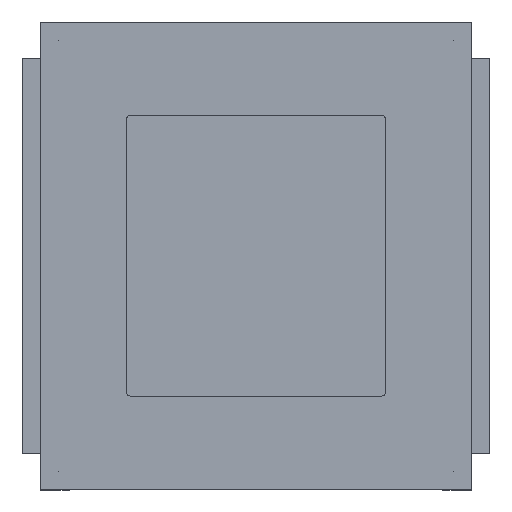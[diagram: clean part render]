
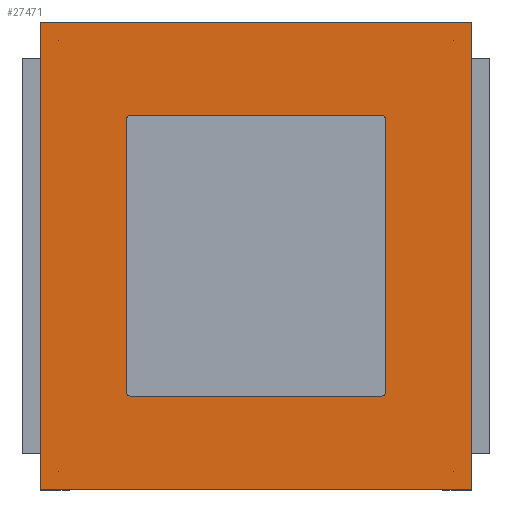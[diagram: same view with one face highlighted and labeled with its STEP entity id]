
A CAD part, top view. The second image highlights one B-rep face of the part: STEP entity #27471.
In plain terms, the highlighted planar face has unit normal (0, 0, 1).
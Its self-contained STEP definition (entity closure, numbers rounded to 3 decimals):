
#27157 = VERTEX_POINT('',#27158);
#27158 = CARTESIAN_POINT('',(-298.,-323.,402.));
#27165 = PLANE('',#27166);
#27166 = AXIS2_PLACEMENT_3D('',#27167,#27168,#27169);
#27167 = CARTESIAN_POINT('',(-298.,-323.,392.));
#27168 = DIRECTION('',(1.,0.,0.));
#27169 = DIRECTION('',(0.,0.,1.));
#27177 = PLANE('',#27178);
#27178 = AXIS2_PLACEMENT_3D('',#27179,#27180,#27181);
#27179 = CARTESIAN_POINT('',(-298.,-323.,392.));
#27180 = DIRECTION('',(0.,1.,0.));
#27181 = DIRECTION('',(0.,0.,1.));
#27218 = VERTEX_POINT('',#27219);
#27219 = CARTESIAN_POINT('',(-298.,323.,402.));
#27233 = PLANE('',#27234);
#27234 = AXIS2_PLACEMENT_3D('',#27235,#27236,#27237);
#27235 = CARTESIAN_POINT('',(-298.,323.,392.));
#27236 = DIRECTION('',(0.,1.,0.));
#27237 = DIRECTION('',(0.,0.,1.));
#27245 = EDGE_CURVE('',#27157,#27218,#27246,.T.);
#27246 = SURFACE_CURVE('',#27247,(#27251,#27258),.PCURVE_S1.);
#27247 = LINE('',#27248,#27249);
#27248 = CARTESIAN_POINT('',(-298.,-323.,402.));
#27249 = VECTOR('',#27250,1.);
#27250 = DIRECTION('',(0.,1.,0.));
#27251 = PCURVE('',#27165,#27252);
#27252 = DEFINITIONAL_REPRESENTATION('',(#27253),#27257);
#27253 = LINE('',#27254,#27255);
#27254 = CARTESIAN_POINT('',(10.,0.));
#27255 = VECTOR('',#27256,1.);
#27256 = DIRECTION('',(0.,-1.));
#27257 = ( GEOMETRIC_REPRESENTATION_CONTEXT(2) 
PARAMETRIC_REPRESENTATION_CONTEXT() REPRESENTATION_CONTEXT('2D SPACE',''
  ) );
#27258 = PCURVE('',#27259,#27264);
#27259 = PLANE('',#27260);
#27260 = AXIS2_PLACEMENT_3D('',#27261,#27262,#27263);
#27261 = CARTESIAN_POINT('',(-298.,-323.,402.));
#27262 = DIRECTION('',(0.,0.,1.));
#27263 = DIRECTION('',(1.,0.,0.));
#27264 = DEFINITIONAL_REPRESENTATION('',(#27265),#27269);
#27265 = LINE('',#27266,#27267);
#27266 = CARTESIAN_POINT('',(0.,0.));
#27267 = VECTOR('',#27268,1.);
#27268 = DIRECTION('',(0.,1.));
#27269 = ( GEOMETRIC_REPRESENTATION_CONTEXT(2) 
PARAMETRIC_REPRESENTATION_CONTEXT() REPRESENTATION_CONTEXT('2D SPACE',''
  ) );
#27277 = VERTEX_POINT('',#27278);
#27278 = CARTESIAN_POINT('',(298.,-323.,402.));
#27285 = PLANE('',#27286);
#27286 = AXIS2_PLACEMENT_3D('',#27287,#27288,#27289);
#27287 = CARTESIAN_POINT('',(298.,-323.,392.));
#27288 = DIRECTION('',(1.,0.,0.));
#27289 = DIRECTION('',(0.,0.,1.));
#27328 = VERTEX_POINT('',#27329);
#27329 = CARTESIAN_POINT('',(298.,323.,402.));
#27350 = EDGE_CURVE('',#27277,#27328,#27351,.T.);
#27351 = SURFACE_CURVE('',#27352,(#27356,#27363),.PCURVE_S1.);
#27352 = LINE('',#27353,#27354);
#27353 = CARTESIAN_POINT('',(298.,-323.,402.));
#27354 = VECTOR('',#27355,1.);
#27355 = DIRECTION('',(0.,1.,0.));
#27356 = PCURVE('',#27285,#27357);
#27357 = DEFINITIONAL_REPRESENTATION('',(#27358),#27362);
#27358 = LINE('',#27359,#27360);
#27359 = CARTESIAN_POINT('',(10.,0.));
#27360 = VECTOR('',#27361,1.);
#27361 = DIRECTION('',(0.,-1.));
#27362 = ( GEOMETRIC_REPRESENTATION_CONTEXT(2) 
PARAMETRIC_REPRESENTATION_CONTEXT() REPRESENTATION_CONTEXT('2D SPACE',''
  ) );
#27363 = PCURVE('',#27259,#27364);
#27364 = DEFINITIONAL_REPRESENTATION('',(#27365),#27369);
#27365 = LINE('',#27366,#27367);
#27366 = CARTESIAN_POINT('',(596.,0.));
#27367 = VECTOR('',#27368,1.);
#27368 = DIRECTION('',(0.,1.));
#27369 = ( GEOMETRIC_REPRESENTATION_CONTEXT(2) 
PARAMETRIC_REPRESENTATION_CONTEXT() REPRESENTATION_CONTEXT('2D SPACE',''
  ) );
#27396 = EDGE_CURVE('',#27157,#27277,#27397,.T.);
#27397 = SURFACE_CURVE('',#27398,(#27402,#27409),.PCURVE_S1.);
#27398 = LINE('',#27399,#27400);
#27399 = CARTESIAN_POINT('',(-298.,-323.,402.));
#27400 = VECTOR('',#27401,1.);
#27401 = DIRECTION('',(1.,0.,0.));
#27402 = PCURVE('',#27177,#27403);
#27403 = DEFINITIONAL_REPRESENTATION('',(#27404),#27408);
#27404 = LINE('',#27405,#27406);
#27405 = CARTESIAN_POINT('',(10.,0.));
#27406 = VECTOR('',#27407,1.);
#27407 = DIRECTION('',(0.,1.));
#27408 = ( GEOMETRIC_REPRESENTATION_CONTEXT(2) 
PARAMETRIC_REPRESENTATION_CONTEXT() REPRESENTATION_CONTEXT('2D SPACE',''
  ) );
#27409 = PCURVE('',#27259,#27410);
#27410 = DEFINITIONAL_REPRESENTATION('',(#27411),#27415);
#27411 = LINE('',#27412,#27413);
#27412 = CARTESIAN_POINT('',(0.,0.));
#27413 = VECTOR('',#27414,1.);
#27414 = DIRECTION('',(1.,0.));
#27415 = ( GEOMETRIC_REPRESENTATION_CONTEXT(2) 
PARAMETRIC_REPRESENTATION_CONTEXT() REPRESENTATION_CONTEXT('2D SPACE',''
  ) );
#27443 = EDGE_CURVE('',#27218,#27328,#27444,.T.);
#27444 = SURFACE_CURVE('',#27445,(#27449,#27456),.PCURVE_S1.);
#27445 = LINE('',#27446,#27447);
#27446 = CARTESIAN_POINT('',(-298.,323.,402.));
#27447 = VECTOR('',#27448,1.);
#27448 = DIRECTION('',(1.,0.,0.));
#27449 = PCURVE('',#27233,#27450);
#27450 = DEFINITIONAL_REPRESENTATION('',(#27451),#27455);
#27451 = LINE('',#27452,#27453);
#27452 = CARTESIAN_POINT('',(10.,0.));
#27453 = VECTOR('',#27454,1.);
#27454 = DIRECTION('',(0.,1.));
#27455 = ( GEOMETRIC_REPRESENTATION_CONTEXT(2) 
PARAMETRIC_REPRESENTATION_CONTEXT() REPRESENTATION_CONTEXT('2D SPACE',''
  ) );
#27456 = PCURVE('',#27259,#27457);
#27457 = DEFINITIONAL_REPRESENTATION('',(#27458),#27462);
#27458 = LINE('',#27459,#27460);
#27459 = CARTESIAN_POINT('',(0.,646.));
#27460 = VECTOR('',#27461,1.);
#27461 = DIRECTION('',(1.,0.));
#27462 = ( GEOMETRIC_REPRESENTATION_CONTEXT(2) 
PARAMETRIC_REPRESENTATION_CONTEXT() REPRESENTATION_CONTEXT('2D SPACE',''
  ) );
#27471 = ADVANCED_FACE('',(#27472),#27259,.T.);
#27472 = FACE_BOUND('',#27473,.T.);
#27473 = EDGE_LOOP('',(#27474,#27475,#27476,#27477));
#27474 = ORIENTED_EDGE('',*,*,#27245,.F.);
#27475 = ORIENTED_EDGE('',*,*,#27396,.T.);
#27476 = ORIENTED_EDGE('',*,*,#27350,.T.);
#27477 = ORIENTED_EDGE('',*,*,#27443,.F.);
